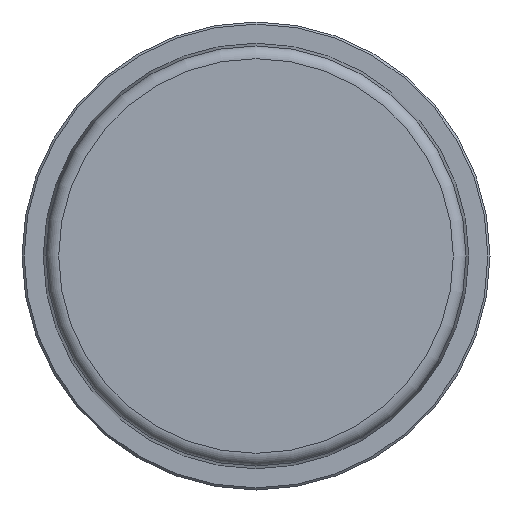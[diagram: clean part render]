
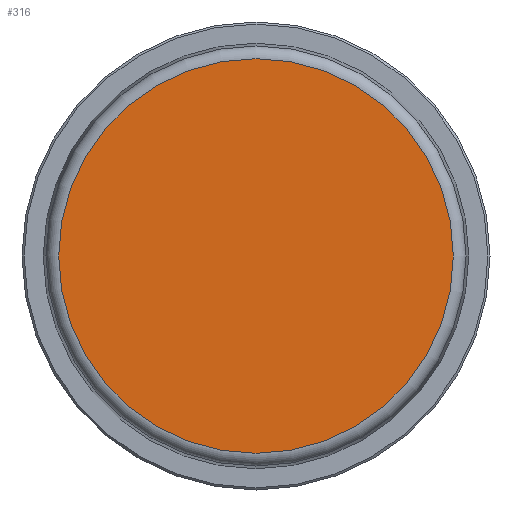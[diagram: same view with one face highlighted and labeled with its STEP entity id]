
A CAD part, left-side view. The second image highlights one B-rep face of the part: STEP entity #316.
In plain terms, the highlighted planar face has unit normal (-1, 0, 0).
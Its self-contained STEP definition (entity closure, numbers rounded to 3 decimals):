
#17=PLANE('',#373);
#71=FACE_OUTER_BOUND('',#92,.T.);
#92=EDGE_LOOP('',(#239));
#122=CIRCLE('',#370,46.376);
#148=VERTEX_POINT('',#548);
#179=EDGE_CURVE('',#148,#148,#122,.T.);
#239=ORIENTED_EDGE('',*,*,#179,.F.);
#316=ADVANCED_FACE('',(#71),#17,.T.);
#370=AXIS2_PLACEMENT_3D('',#550,#446,#447);
#373=AXIS2_PLACEMENT_3D('',#555,#453,#454);
#446=DIRECTION('center_axis',(1.,0.,0.));
#447=DIRECTION('ref_axis',(0.,-1.,0.));
#453=DIRECTION('center_axis',(-1.,0.,0.));
#454=DIRECTION('ref_axis',(0.,0.,1.));
#548=CARTESIAN_POINT('',(0.,0.,46.376));
#550=CARTESIAN_POINT('Origin',(0.,0.,0.));
#555=CARTESIAN_POINT('Origin',(0.,49.125,0.));
